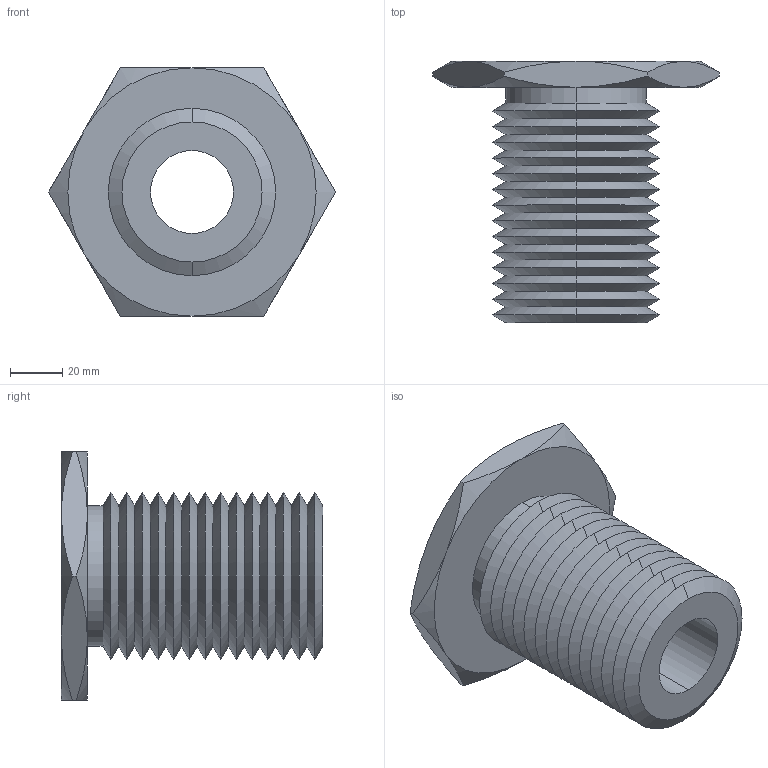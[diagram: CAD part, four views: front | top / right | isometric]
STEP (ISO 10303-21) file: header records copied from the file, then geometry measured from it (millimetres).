
FILE_DESCRIPTION (( 'STEP AP203' ), '1' );
FILE_NAME ('63302.W0064_1,25 UNC-7.step', '2013-12-08T11:28:08', ( 'User' ), ( '' ), 'SwSTEP 2.0', 'SolidWorks 2009', '' );
FILE_SCHEMA (( 'CONFIG_CONTROL_DESIGN' ));
Length unit declared in the file: millimetre
Products named in the file (1): 63302.W0064_1,25 UNC-7
Bounding box: 109.7 x 100 x 95 mm (x, y, z)
Volume: 238683.1 mm3; surface area: 58432.6 mm2
Topology: 1 solids, 1 shells, 83 faces, 170 edges, 90 vertices
Faces by surface type: cone 70, plane 9, cylinder 4
Entity records: 2371 total; most frequent: CARTESIAN_POINT 560, DIRECTION 392, ORIENTED_EDGE 340, EDGE_CURVE 170, AXIS2_PLACEMENT_3D 162, VERTEX_POINT 90, EDGE_LOOP 86, ADVANCED_FACE 83
